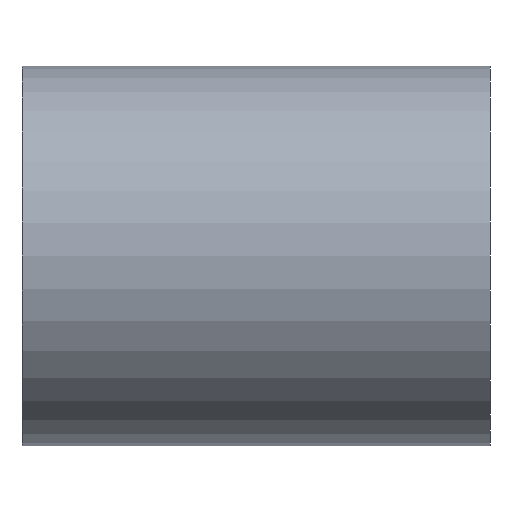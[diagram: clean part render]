
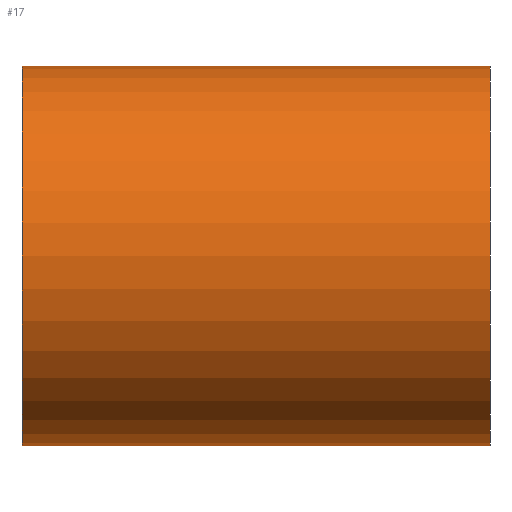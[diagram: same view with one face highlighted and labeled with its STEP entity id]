
A CAD part, front view. The second image highlights one B-rep face of the part: STEP entity #17.
In plain terms, the highlighted cylindrical face has radius 3 mm (diameter 6 mm), a full revolution.
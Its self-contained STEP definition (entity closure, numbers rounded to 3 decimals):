
#17 = ADVANCED_FACE('',(#18),#32,.T.);
#18 = FACE_BOUND('',#19,.F.);
#19 = EDGE_LOOP('',(#20,#50,#77,#78));
#20 = ORIENTED_EDGE('',*,*,#21,.T.);
#21 = EDGE_CURVE('',#22,#24,#26,.T.);
#22 = VERTEX_POINT('',#23);
#23 = CARTESIAN_POINT('',(-22.,65.,259.));
#24 = VERTEX_POINT('',#25);
#25 = CARTESIAN_POINT('',(-14.6,65.,259.));
#26 = SEAM_CURVE('',#27,(#31,#43),.PCURVE_S1.);
#27 = LINE('',#28,#29);
#28 = CARTESIAN_POINT('',(-22.,65.,259.));
#29 = VECTOR('',#30,1.);
#30 = DIRECTION('',(1.,0.,0.));
#31 = PCURVE('',#32,#37);
#32 = CYLINDRICAL_SURFACE('',#33,3.);
#33 = AXIS2_PLACEMENT_3D('',#34,#35,#36);
#34 = CARTESIAN_POINT('',(-22.,68.,259.));
#35 = DIRECTION('',(-1.,-0.,-0.));
#36 = DIRECTION('',(0.,-1.,0.));
#37 = DEFINITIONAL_REPRESENTATION('',(#38),#42);
#38 = LINE('',#39,#40);
#39 = CARTESIAN_POINT('',(-0.,0.));
#40 = VECTOR('',#41,1.);
#41 = DIRECTION('',(-0.,-1.));
#42 = ( GEOMETRIC_REPRESENTATION_CONTEXT(2) 
PARAMETRIC_REPRESENTATION_CONTEXT() REPRESENTATION_CONTEXT('2D SPACE',''
  ) );
#43 = PCURVE('',#32,#44);
#44 = DEFINITIONAL_REPRESENTATION('',(#45),#49);
#45 = LINE('',#46,#47);
#46 = CARTESIAN_POINT('',(-6.283,0.));
#47 = VECTOR('',#48,1.);
#48 = DIRECTION('',(-0.,-1.));
#49 = ( GEOMETRIC_REPRESENTATION_CONTEXT(2) 
PARAMETRIC_REPRESENTATION_CONTEXT() REPRESENTATION_CONTEXT('2D SPACE',''
  ) );
#50 = ORIENTED_EDGE('',*,*,#51,.T.);
#51 = EDGE_CURVE('',#24,#24,#52,.T.);
#52 = SURFACE_CURVE('',#53,(#58,#65),.PCURVE_S1.);
#53 = CIRCLE('',#54,3.);
#54 = AXIS2_PLACEMENT_3D('',#55,#56,#57);
#55 = CARTESIAN_POINT('',(-14.6,68.,259.));
#56 = DIRECTION('',(1.,0.,0.));
#57 = DIRECTION('',(0.,-1.,0.));
#58 = PCURVE('',#32,#59);
#59 = DEFINITIONAL_REPRESENTATION('',(#60),#64);
#60 = LINE('',#61,#62);
#61 = CARTESIAN_POINT('',(-0.,-7.4));
#62 = VECTOR('',#63,1.);
#63 = DIRECTION('',(-1.,0.));
#64 = ( GEOMETRIC_REPRESENTATION_CONTEXT(2) 
PARAMETRIC_REPRESENTATION_CONTEXT() REPRESENTATION_CONTEXT('2D SPACE',''
  ) );
#65 = PCURVE('',#66,#71);
#66 = PLANE('',#67);
#67 = AXIS2_PLACEMENT_3D('',#68,#69,#70);
#68 = CARTESIAN_POINT('',(-14.6,68.,259.));
#69 = DIRECTION('',(1.,0.,0.));
#70 = DIRECTION('',(-0.,0.,1.));
#71 = DEFINITIONAL_REPRESENTATION('',(#72),#76);
#72 = CIRCLE('',#73,3.);
#73 = AXIS2_PLACEMENT_2D('',#74,#75);
#74 = CARTESIAN_POINT('',(0.,0.));
#75 = DIRECTION('',(0.,1.));
#76 = ( GEOMETRIC_REPRESENTATION_CONTEXT(2) 
PARAMETRIC_REPRESENTATION_CONTEXT() REPRESENTATION_CONTEXT('2D SPACE',''
  ) );
#77 = ORIENTED_EDGE('',*,*,#21,.F.);
#78 = ORIENTED_EDGE('',*,*,#79,.F.);
#79 = EDGE_CURVE('',#22,#22,#80,.T.);
#80 = SURFACE_CURVE('',#81,(#86,#93),.PCURVE_S1.);
#81 = CIRCLE('',#82,3.);
#82 = AXIS2_PLACEMENT_3D('',#83,#84,#85);
#83 = CARTESIAN_POINT('',(-22.,68.,259.));
#84 = DIRECTION('',(1.,0.,0.));
#85 = DIRECTION('',(0.,-1.,0.));
#86 = PCURVE('',#32,#87);
#87 = DEFINITIONAL_REPRESENTATION('',(#88),#92);
#88 = LINE('',#89,#90);
#89 = CARTESIAN_POINT('',(-0.,0.));
#90 = VECTOR('',#91,1.);
#91 = DIRECTION('',(-1.,0.));
#92 = ( GEOMETRIC_REPRESENTATION_CONTEXT(2) 
PARAMETRIC_REPRESENTATION_CONTEXT() REPRESENTATION_CONTEXT('2D SPACE',''
  ) );
#93 = PCURVE('',#94,#99);
#94 = PLANE('',#95);
#95 = AXIS2_PLACEMENT_3D('',#96,#97,#98);
#96 = CARTESIAN_POINT('',(-22.,68.,259.));
#97 = DIRECTION('',(1.,0.,0.));
#98 = DIRECTION('',(-0.,0.,1.));
#99 = DEFINITIONAL_REPRESENTATION('',(#100),#104);
#100 = CIRCLE('',#101,3.);
#101 = AXIS2_PLACEMENT_2D('',#102,#103);
#102 = CARTESIAN_POINT('',(0.,0.));
#103 = DIRECTION('',(0.,1.));
#104 = ( GEOMETRIC_REPRESENTATION_CONTEXT(2) 
PARAMETRIC_REPRESENTATION_CONTEXT() REPRESENTATION_CONTEXT('2D SPACE',''
  ) );
